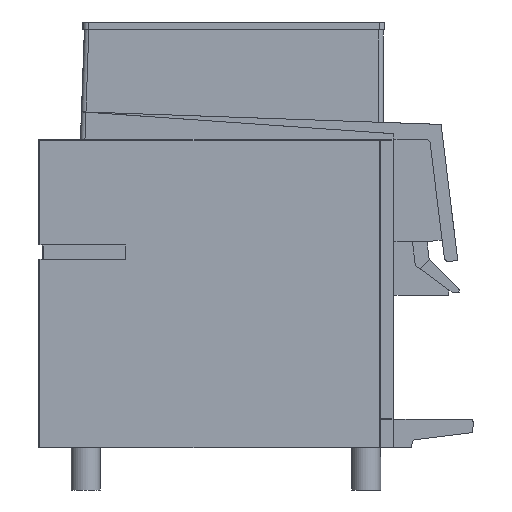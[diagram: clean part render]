
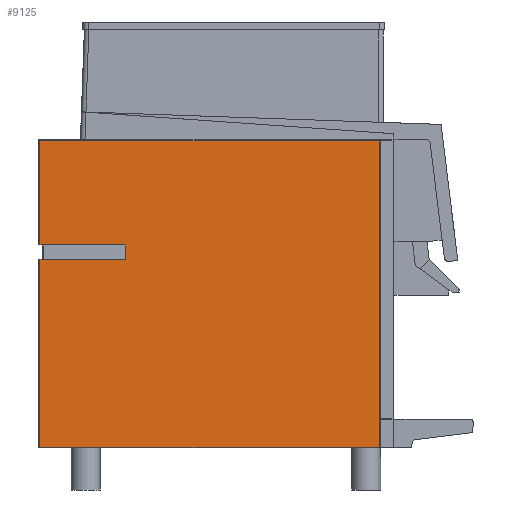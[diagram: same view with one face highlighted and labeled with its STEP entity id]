
A CAD part, left-side view. The second image highlights one B-rep face of the part: STEP entity #9125.
In plain terms, the highlighted planar face has unit normal (-1, 0, 0).
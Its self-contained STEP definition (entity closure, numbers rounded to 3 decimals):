
#460=LINE('',#12209,#1217);
#722=LINE('',#12864,#1479);
#723=LINE('',#12866,#1480);
#724=LINE('',#12868,#1481);
#725=LINE('',#12870,#1482);
#726=LINE('',#12872,#1483);
#727=LINE('',#12874,#1484);
#728=LINE('',#12876,#1485);
#729=LINE('',#12878,#1486);
#730=LINE('',#12880,#1487);
#1217=VECTOR('',#10221,1000.);
#1479=VECTOR('',#10749,1000.);
#1480=VECTOR('',#10750,1000.);
#1481=VECTOR('',#10751,1000.);
#1482=VECTOR('',#10752,1000.);
#1483=VECTOR('',#10753,1000.);
#1484=VECTOR('',#10754,1000.);
#1485=VECTOR('',#10755,1000.);
#1486=VECTOR('',#10756,1000.);
#1487=VECTOR('',#10757,1000.);
#2448=ORIENTED_EDGE('',*,*,#3953,.F.);
#2449=ORIENTED_EDGE('',*,*,#4287,.T.);
#2450=ORIENTED_EDGE('',*,*,#4288,.T.);
#2451=ORIENTED_EDGE('',*,*,#4289,.T.);
#2452=ORIENTED_EDGE('',*,*,#4290,.F.);
#2453=ORIENTED_EDGE('',*,*,#4291,.F.);
#2454=ORIENTED_EDGE('',*,*,#4292,.F.);
#2455=ORIENTED_EDGE('',*,*,#4293,.T.);
#2456=ORIENTED_EDGE('',*,*,#4294,.T.);
#2457=ORIENTED_EDGE('',*,*,#4295,.T.);
#3953=EDGE_CURVE('',#4908,#4909,#460,.T.);
#4287=EDGE_CURVE('',#4908,#5169,#722,.T.);
#4288=EDGE_CURVE('',#5169,#5170,#723,.F.);
#4289=EDGE_CURVE('',#5170,#5171,#724,.F.);
#4290=EDGE_CURVE('',#5172,#5171,#725,.T.);
#4291=EDGE_CURVE('',#5173,#5172,#726,.T.);
#4292=EDGE_CURVE('',#5174,#5173,#727,.T.);
#4293=EDGE_CURVE('',#5174,#5175,#728,.T.);
#4294=EDGE_CURVE('',#5175,#5176,#729,.T.);
#4295=EDGE_CURVE('',#5176,#4909,#730,.F.);
#4908=VERTEX_POINT('',#12208);
#4909=VERTEX_POINT('',#12210);
#5169=VERTEX_POINT('',#12865);
#5170=VERTEX_POINT('',#12867);
#5171=VERTEX_POINT('',#12869);
#5172=VERTEX_POINT('',#12871);
#5173=VERTEX_POINT('',#12873);
#5174=VERTEX_POINT('',#12875);
#5175=VERTEX_POINT('',#12877);
#5176=VERTEX_POINT('',#12879);
#5533=EDGE_LOOP('',(#2448,#2449,#2450,#2451,#2452,#2453,#2454,#2455,#2456,
#2457));
#5929=FACE_BOUND('',#5533,.T.);
#6298=PLANE('',#9607);
#9125=ADVANCED_FACE('',(#5929),#6298,.F.);
#9607=AXIS2_PLACEMENT_3D('',#12863,#10747,#10748);
#10221=DIRECTION('',(0.,1.,0.));
#10747=DIRECTION('',(1.,0.,0.));
#10748=DIRECTION('',(0.,1.,0.));
#10749=DIRECTION('',(0.,0.,1.));
#10750=DIRECTION('',(0.,-1.,0.));
#10751=DIRECTION('',(0.,0.,1.));
#10752=DIRECTION('',(0.,1.,0.));
#10753=DIRECTION('',(0.,1.,0.));
#10754=DIRECTION('',(0.,0.,1.));
#10755=DIRECTION('',(0.,1.,0.));
#10756=DIRECTION('',(0.,1.,0.));
#10757=DIRECTION('',(0.,0.,1.));
#12208=CARTESIAN_POINT('',(-440.,-470.,0.));
#12209=CARTESIAN_POINT('',(-440.,-490.,0.));
#12210=CARTESIAN_POINT('',(-440.,-1.2,0.));
#12863=CARTESIAN_POINT('',(-440.,0.,0.));
#12864=CARTESIAN_POINT('',(-440.,-470.,420.5));
#12865=CARTESIAN_POINT('',(-440.,-470.,424.8));
#12866=CARTESIAN_POINT('',(-440.,0.,424.8));
#12867=CARTESIAN_POINT('',(-440.,-1.2,424.8));
#12868=CARTESIAN_POINT('',(-440.,-1.2,0.));
#12869=CARTESIAN_POINT('',(-440.,-1.2,280.));
#12870=CARTESIAN_POINT('',(-440.,-5.,280.));
#12871=CARTESIAN_POINT('',(-440.,-5.133,280.));
#12872=CARTESIAN_POINT('',(-440.,-120.,280.));
#12873=CARTESIAN_POINT('',(-440.,-120.,280.));
#12874=CARTESIAN_POINT('',(-440.,-120.,260.));
#12875=CARTESIAN_POINT('',(-440.,-120.,260.));
#12876=CARTESIAN_POINT('',(-440.,-120.,260.));
#12877=CARTESIAN_POINT('',(-440.,-5.133,260.));
#12878=CARTESIAN_POINT('',(-440.,-5.,260.));
#12879=CARTESIAN_POINT('',(-440.,-1.2,260.));
#12880=CARTESIAN_POINT('',(-440.,-1.2,0.));
